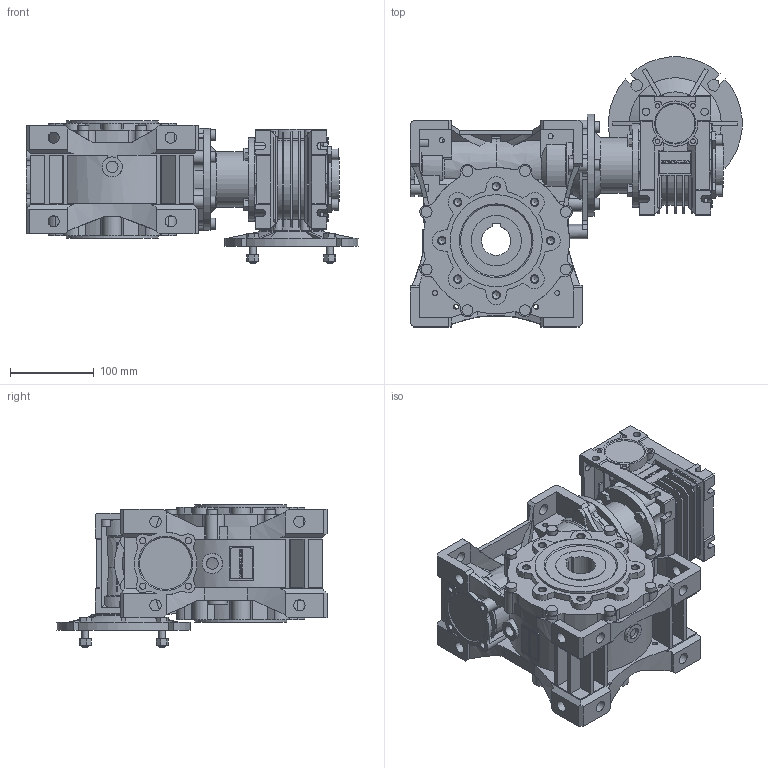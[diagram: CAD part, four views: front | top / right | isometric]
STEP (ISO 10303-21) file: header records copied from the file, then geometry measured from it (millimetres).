
FILE_DESCRIPTION(/* description */ ('STEP AP214'),/* implementation_level */ '2;1');
FILE_NAME(/* name */ 'NMRVP-NMRVP 050-090 100 (10x10) AS1 160x14 25 NO 35 NO NO - - NO - - - NO NO - --(--------)',/* time_stamp */ '2024-10-24T14:17:54+02:00',/* author */ ('License CC BY-ND 4.0'),/* organization */ ('CADENAS'),/* preprocessor_version */ 'ST-DEVELOPER v19.3',/* originating_system */ 'PARTsolutions',/* authorisation */ ' ');
FILE_SCHEMA (('AUTOMOTIVE_DESIGN {1 0 10303 214 3 1 1}'));
Length unit declared in the file: millimetre
Products named in the file (11): NMRVP-NMRVP 050-090 100 (10x10) AS1 160x14 25 NO 35 NO NO - - NO - - 
- NO NO - --(--------); W.090.01.M; 090-35 (140); W.090.14.24.M-p; 050-090-TRA; W.050.01.M; 050-25 (92); VB 050-14 (14)-p; 5071 B5; Corona 50-p; 90-50
Assembly tree (10 placements, depth 2):
  NMRVP-NMRVP 050-090 100 (10x10) AS1 160x14 25 NO 35 NO NO - - NO - - 
- NO NO - --(--------)
    W.090.01.M
    090-35 (140)
    W.090.14.24.M-p
    050-090-TRA
    W.050.01.M
    050-25 (92)
    VB 050-14 (14)-p
    5071 B5
    Corona 50-p
    90-50
Bounding box: 396.77 x 322.77 x 170 mm (x, y, z)
Volume: 5822505.2 mm3; surface area: 795423.2 mm2
Topology: 10 solids, 17 shells, 2238 faces, 6023 edges, 3967 vertices
Faces by surface type: plane 1350, cylinder 732, cone 152, torus 4
Full cylindrical faces by diameter (mm): 3.775 x3, 5.55 x4, 6 x12, 6.647 x8, 7.45 x12, 8 x8, 8.376 x16, 8.8 x8, 10 x14, 13 x18, 13.4 x14, 14 x4, 16 x1, 24 x2, 28 x2, 29 x1, 31 x1, 34 x1, 40 x2, 45 x1, 47 x2, 50 x3, 55 x1, 58 x1, 60 x1, 66 x1, 70 x3, 75 x2, 76 x1, 90 x2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
Entity records: 84722 total; most frequent: CARTESIAN_POINT 13281, DIRECTION 11654, ORIENTED_EDGE 11444, EDGE_CURVE 5722, AXIS2_PLACEMENT_3D 4082, VERTEX_POINT 3916, LINE 3490, VECTOR 3490
